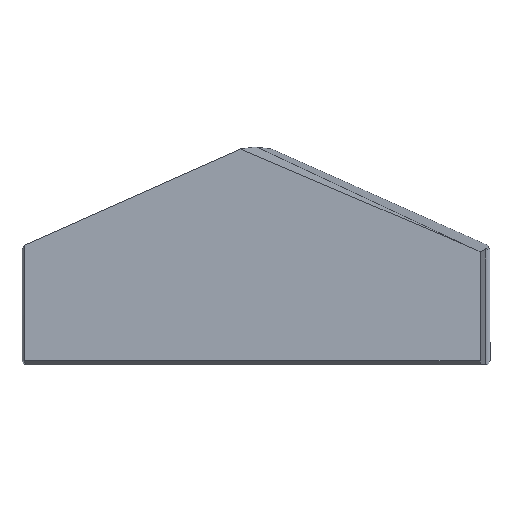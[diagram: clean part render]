
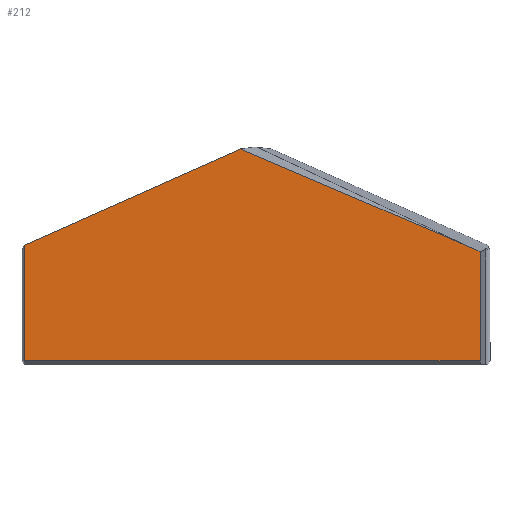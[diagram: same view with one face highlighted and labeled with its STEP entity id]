
A CAD part, top view. The second image highlights one B-rep face of the part: STEP entity #212.
In plain terms, the highlighted planar face has unit normal (0, 0, 1).
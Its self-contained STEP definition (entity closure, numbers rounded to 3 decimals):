
#13 = CARTESIAN_POINT ( 'NONE',  ( 5.639, 13.193, 4.8 ) ) ;
#26 = DIRECTION ( 'NONE',  ( 1., 0., 0. ) ) ;
#29 = CARTESIAN_POINT ( 'NONE',  ( 0., 0., 4.8 ) ) ;
#34 = LINE ( 'NONE', #13, #115 ) ;
#52 = EDGE_LOOP ( 'NONE', ( #284, #217, #221, #538, #175, #205, #337 ) ) ;
#57 = VECTOR ( 'NONE', #283, 1000. ) ;
#59 = EDGE_CURVE ( 'NONE', #329, #505, #346, .T. ) ;
#67 = DIRECTION ( 'NONE',  ( 1., 0., 0. ) ) ;
#108 = EDGE_CURVE ( 'NONE', #484, #470, #360, .T. ) ;
#115 = VECTOR ( 'NONE', #293, 1000. ) ;
#126 = EDGE_CURVE ( 'NONE', #505, #484, #231, .T. ) ;
#143 = VECTOR ( 'NONE', #229, 1000. ) ;
#144 = VECTOR ( 'NONE', #67, 1000. ) ;
#166 = CARTESIAN_POINT ( 'NONE',  ( 17.124, 0.289, 4.8 ) ) ;
#170 = VERTEX_POINT ( 'NONE', #390 ) ;
#175 = ORIENTED_EDGE ( 'NONE', *, *, #59, .T. ) ;
#184 = LINE ( 'NONE', #323, #57 ) ;
#200 = CARTESIAN_POINT ( 'NONE',  ( -1.166, 16.101, 4.8 ) ) ;
#203 = DIRECTION ( 'NONE',  ( 0., 1., 0. ) ) ;
#205 = ORIENTED_EDGE ( 'NONE', *, *, #126, .T. ) ;
#212 = ADVANCED_FACE ( 'NONE', ( #366 ), #260, .T. ) ;
#217 = ORIENTED_EDGE ( 'NONE', *, *, #527, .T. ) ;
#221 = ORIENTED_EDGE ( 'NONE', *, *, #356, .T. ) ;
#229 = DIRECTION ( 'NONE',  ( -0.914, 0.407, 0. ) ) ;
#231 = LINE ( 'NONE', #166, #144 ) ;
#245 = VECTOR ( 'NONE', #203, 1000. ) ;
#247 = CARTESIAN_POINT ( 'NONE',  ( -17.299, 0., 4.8 ) ) ;
#252 = CARTESIAN_POINT ( 'NONE',  ( -17.295, 0.292, 4.8 ) ) ;
#260 = PLANE ( 'NONE',  #410 ) ;
#280 = LINE ( 'NONE', #247, #400 ) ;
#283 = DIRECTION ( 'NONE',  ( -0.914, -0.407, 0. ) ) ;
#284 = ORIENTED_EDGE ( 'NONE', *, *, #304, .T. ) ;
#293 = DIRECTION ( 'NONE',  ( -0.92, 0.393, 0. ) ) ;
#304 = EDGE_CURVE ( 'NONE', #470, #457, #563, .T. ) ;
#306 = DIRECTION ( 'NONE',  ( 0., 0., 1. ) ) ;
#323 = CARTESIAN_POINT ( 'NONE',  ( 0., 16.62, 4.8 ) ) ;
#329 = VERTEX_POINT ( 'NONE', #486 ) ;
#334 = CARTESIAN_POINT ( 'NONE',  ( 16.715, 0., 4.8 ) ) ;
#337 = ORIENTED_EDGE ( 'NONE', *, *, #108, .T. ) ;
#346 = B_SPLINE_CURVE_WITH_KNOTS ( 'NONE', 3,
 ( #378, #381, #252, #542 ),
 .UNSPECIFIED., .F., .F.,
 ( 4, 4 ),
 ( 0., 0. ),
 .UNSPECIFIED. ) ;
#356 = EDGE_CURVE ( 'NONE', #513, #170, #184, .T. ) ;
#360 = LINE ( 'NONE', #334, #245 ) ;
#366 = FACE_OUTER_BOUND ( 'NONE', #52, .T. ) ;
#374 = CARTESIAN_POINT ( 'NONE',  ( 15.617, 8.929, 4.8 ) ) ;
#377 = CARTESIAN_POINT ( 'NONE',  ( 16.715, 8.44, 4.8 ) ) ;
#378 = CARTESIAN_POINT ( 'NONE',  ( -17.299, 0.3, 4.8 ) ) ;
#381 = CARTESIAN_POINT ( 'NONE',  ( -17.297, 0.296, 4.8 ) ) ;
#390 = CARTESIAN_POINT ( 'NONE',  ( -17.299, 8.918, 4.8 ) ) ;
#391 = CARTESIAN_POINT ( 'NONE',  ( -17.293, 0.289, 4.8 ) ) ;
#400 = VECTOR ( 'NONE', #431, 1000. ) ;
#410 = AXIS2_PLACEMENT_3D ( 'NONE', #29, #306, #26 ) ;
#431 = DIRECTION ( 'NONE',  ( 0., 1., 0. ) ) ;
#445 = CARTESIAN_POINT ( 'NONE',  ( 5.901, 13.254, 4.8 ) ) ;
#457 = VERTEX_POINT ( 'NONE', #374 ) ;
#470 = VERTEX_POINT ( 'NONE', #377 ) ;
#484 = VERTEX_POINT ( 'NONE', #516 ) ;
#486 = CARTESIAN_POINT ( 'NONE',  ( -17.299, 0.3, 4.8 ) ) ;
#505 = VERTEX_POINT ( 'NONE', #391 ) ;
#513 = VERTEX_POINT ( 'NONE', #200 ) ;
#516 = CARTESIAN_POINT ( 'NONE',  ( 16.715, 0.289, 4.8 ) ) ;
#527 = EDGE_CURVE ( 'NONE', #457, #513, #34, .T. ) ;
#538 = ORIENTED_EDGE ( 'NONE', *, *, #561, .F. ) ;
#542 = CARTESIAN_POINT ( 'NONE',  ( -17.293, 0.289, 4.8 ) ) ;
#561 = EDGE_CURVE ( 'NONE', #329, #170, #280, .T. ) ;
#563 = LINE ( 'NONE', #445, #143 ) ;
